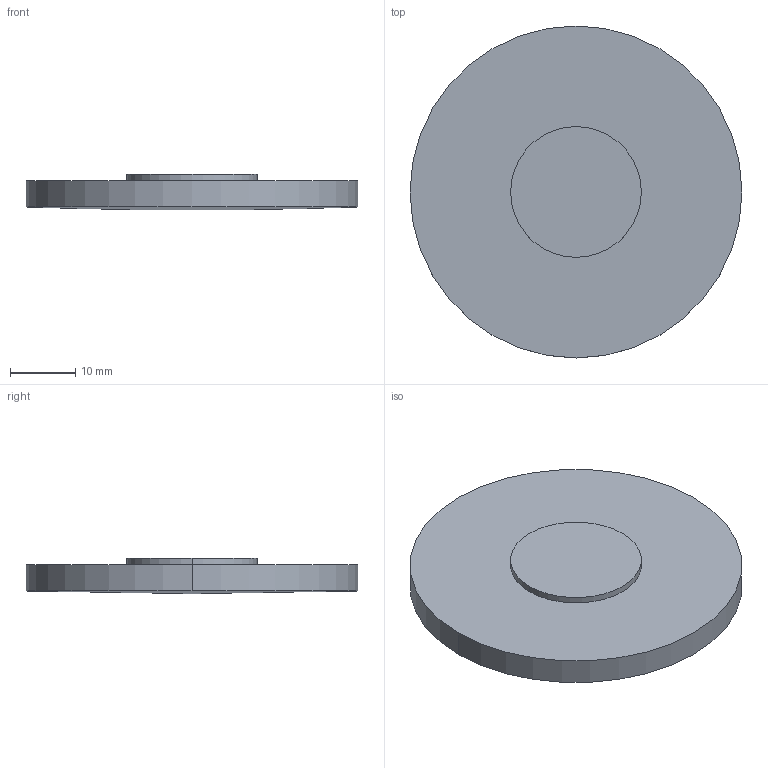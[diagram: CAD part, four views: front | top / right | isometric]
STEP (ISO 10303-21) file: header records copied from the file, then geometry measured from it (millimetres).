
FILE_DESCRIPTION(('STEP AP214'),'1');
FILE_NAME('LLZ-51475.STEP','2020-03-09T17:42:39',(' '),(' '),'Spatial InterOp 3D',' ',' ');
FILE_SCHEMA(('AUTOMOTIVE_DESIGN { 1 0 10303 214 1 1 1 1 }'));
Length unit declared in the file: millimetre
Products named in the file (1): 1
Bounding box: 50.8 x 50.8 x 5.5 mm (x, y, z)
Volume: 8972.2 mm3; surface area: 5390.8 mm2
Topology: 2 solids, 2 shells, 9 faces, 16 edges, 9 vertices
Faces by surface type: cylinder 4, plane 3, sphere 2
Entity records: 229 total; most frequent: DIRECTION 46, CARTESIAN_POINT 34, ORIENTED_EDGE 28, AXIS2_PLACEMENT_3D 21, EDGE_CURVE 14, CIRCLE 10, ADVANCED_FACE 9, FACE_OUTER_BOUND 9
